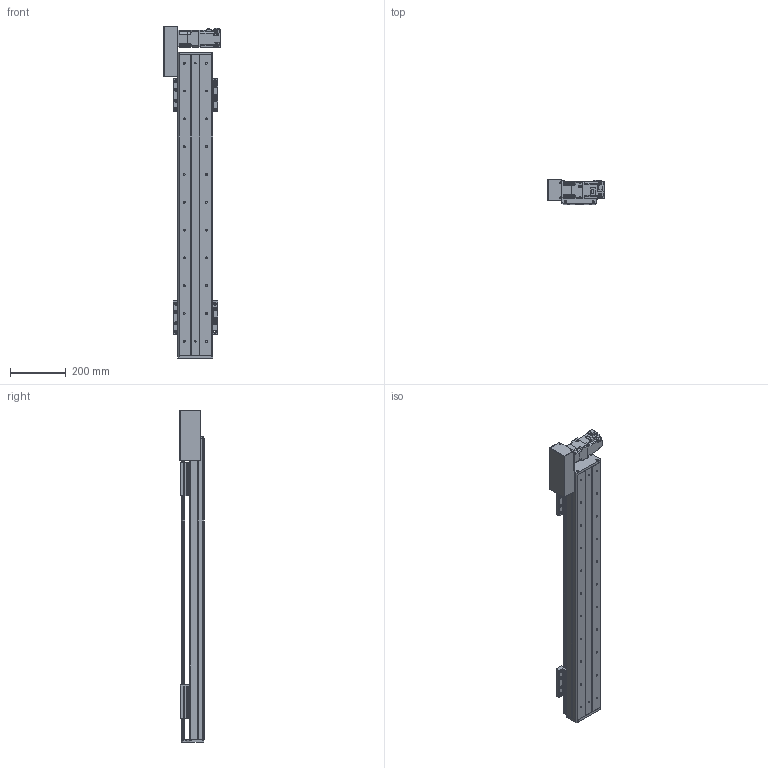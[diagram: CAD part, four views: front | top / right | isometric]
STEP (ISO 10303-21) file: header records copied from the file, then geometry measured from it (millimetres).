
FILE_DESCRIPTION(/* description */ (''),/* implementation_level */ '2;1');
FILE_NAME(/* name */ 'C:\Users\PC\Desktop\3D도면\STEP\DSB125-L2G-W0800-R.stp',/* time_stamp */ '2018-06-13T10:12:49+09:00',/* author */ ('PC'),/* organization */ (''),/* preprocessor_version */ 'ST-DEVELOPER v16.5',/* originating_system */ 'Autodesk Inventor 2017',/* authorisation */ '');
FILE_SCHEMA (('AUTOMOTIVE_DESIGN { 1 0 10303 214 3 1 1 }'));
Length unit declared in the file: millimetre
Products named in the file (12): DSB125-L-300ST; DSR125-BASE(S-TYPE); DSR125-REAR COVER-R01(170203); DSR125-REAR COVER-R01(170203)_1; DSR125-UP COVER-R01(170203); DSR125-TABLE(MSA15X); hg-kr23_; ab0601-p0401200402; 13-BELT COVER; DSR126-SENSOR DOG; pm-y65_step; SENSOR BRACKET(EE-SX674A)
Assembly tree (16 placements, depth 2):
  DSB125-L-300ST
    DSR125-BASE(S-TYPE)
    DSR125-REAR COVER-R01(170203)
    DSR125-REAR COVER-R01(170203)_1
    DSR125-UP COVER-R01(170203)
    DSR125-TABLE(MSA15X)  x2
    hg-kr23_
    ab0601-p0401200402
    13-BELT COVER
    DSR126-SENSOR DOG
    pm-y65_step  x3
    SENSOR BRACKET(EE-SX674A)  x3
Bounding box: 202.1 x 88 x 1194 mm (x, y, z)
Volume: 4258173.1 mm3; surface area: 1228524.8 mm2
Topology: 17 solids, 22 shells, 1665 faces, 4511 edges, 2976 vertices
Faces by surface type: plane 908, cylinder 633, cone 112, sphere 8, torus 4
Full cylindrical faces by diameter (mm): 2.459 x20, 3.242 x16, 3.5 x6, 4 x1, 4.134 x16, 4.2 x4, 4.3 x1, 4.5 x50, 4.917 x20, 5 x27, 5.3 x1, 5.5 x4, 5.6 x8, 5.8 x4, 5.9 x8, 6 x4, 6.6 x22, 6.647 x22, 7.5 x32, 8.5 x8, 8.7 x1, 11 x22, 14 x1, 16 x2, 17 x1, 20 x1, 47 x1, 50 x3
Entity records: 35430 total; most frequent: CARTESIAN_POINT 6511, DIRECTION 6140, ORIENTED_EDGE 5486, EDGE_CURVE 2748, AXIS2_PLACEMENT_3D 2258, VERTEX_POINT 1957, EDGE_LOOP 1681, LINE 1624
